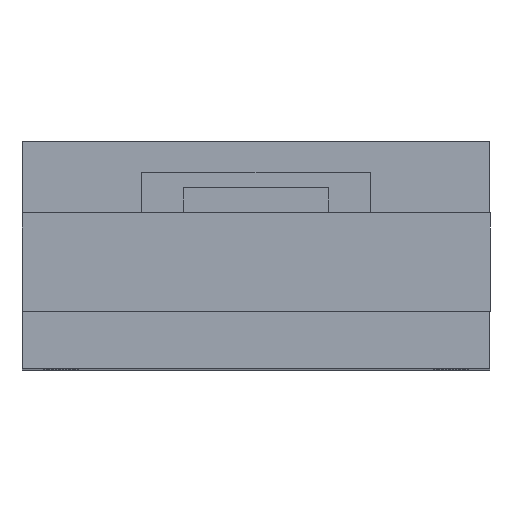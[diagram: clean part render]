
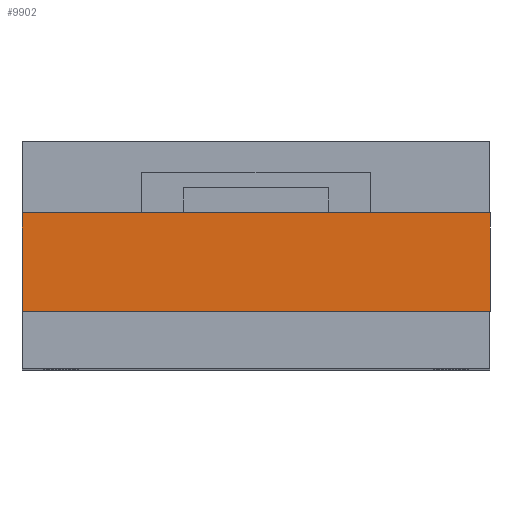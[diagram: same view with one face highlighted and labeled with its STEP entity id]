
A CAD part, top view. The second image highlights one B-rep face of the part: STEP entity #9902.
In plain terms, the highlighted planar face has unit normal (0, 0, 1).
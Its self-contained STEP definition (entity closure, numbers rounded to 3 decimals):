
#374 = AXIS2_PLACEMENT_3D ( 'NONE', #3799, #8805, #13590 ) ;
#752 = VERTEX_POINT ( 'NONE', #8054 ) ;
#1402 = CARTESIAN_POINT ( 'NONE',  ( 121.853, 19., 148.964 ) ) ;
#1420 = PLANE ( 'NONE',  #374 ) ;
#2367 = LINE ( 'NONE', #10633, #10845 ) ;
#3602 = ORIENTED_EDGE ( 'NONE', *, *, #11679, .T. ) ;
#3714 = DIRECTION ( 'NONE',  ( 0., -1., 0. ) ) ;
#3799 = CARTESIAN_POINT ( 'NONE',  ( 31.853, 19., 148.964 ) ) ;
#3940 = LINE ( 'NONE', #1402, #4740 ) ;
#4258 = CARTESIAN_POINT ( 'NONE',  ( 31.853, 0., 148.964 ) ) ;
#4710 = EDGE_CURVE ( 'NONE', #14126, #12960, #2367, .T. ) ;
#4740 = VECTOR ( 'NONE', #6244, 1000. ) ;
#5133 = LINE ( 'NONE', #8566, #7474 ) ;
#5867 = DIRECTION ( 'NONE',  ( 1., 0., 0. ) ) ;
#6244 = DIRECTION ( 'NONE',  ( 0., -1., 0. ) ) ;
#6337 = FACE_OUTER_BOUND ( 'NONE', #10359, .T. ) ;
#6501 = EDGE_CURVE ( 'NONE', #12960, #752, #3940, .T. ) ;
#7083 = CARTESIAN_POINT ( 'NONE',  ( 121.853, 19., 148.964 ) ) ;
#7202 = VECTOR ( 'NONE', #11405, 1000. ) ;
#7474 = VECTOR ( 'NONE', #3714, 1000. ) ;
#8054 = CARTESIAN_POINT ( 'NONE',  ( 121.853, 0., 148.964 ) ) ;
#8216 = ORIENTED_EDGE ( 'NONE', *, *, #4710, .F. ) ;
#8566 = CARTESIAN_POINT ( 'NONE',  ( 31.853, 19., 148.964 ) ) ;
#8805 = DIRECTION ( 'NONE',  ( 0., 0., -1. ) ) ;
#9881 = EDGE_CURVE ( 'NONE', #14126, #10487, #5133, .T. ) ;
#9902 = ADVANCED_FACE ( 'NONE', ( #6337 ), #1420, .F. ) ;
#10359 = EDGE_LOOP ( 'NONE', ( #3602, #13035, #8216, #11285 ) ) ;
#10487 = VERTEX_POINT ( 'NONE', #4258 ) ;
#10633 = CARTESIAN_POINT ( 'NONE',  ( 31.853, 19., 148.964 ) ) ;
#10845 = VECTOR ( 'NONE', #5867, 1000. ) ;
#11285 = ORIENTED_EDGE ( 'NONE', *, *, #9881, .T. ) ;
#11405 = DIRECTION ( 'NONE',  ( 1., 0., 0. ) ) ;
#11679 = EDGE_CURVE ( 'NONE', #10487, #752, #14986, .T. ) ;
#12242 = CARTESIAN_POINT ( 'NONE',  ( 31.853, 19., 148.964 ) ) ;
#12960 = VERTEX_POINT ( 'NONE', #7083 ) ;
#13035 = ORIENTED_EDGE ( 'NONE', *, *, #6501, .F. ) ;
#13590 = DIRECTION ( 'NONE',  ( -1., 0., 0. ) ) ;
#13641 = CARTESIAN_POINT ( 'NONE',  ( 31.853, 0., 148.964 ) ) ;
#14126 = VERTEX_POINT ( 'NONE', #12242 ) ;
#14986 = LINE ( 'NONE', #13641, #7202 ) ;
